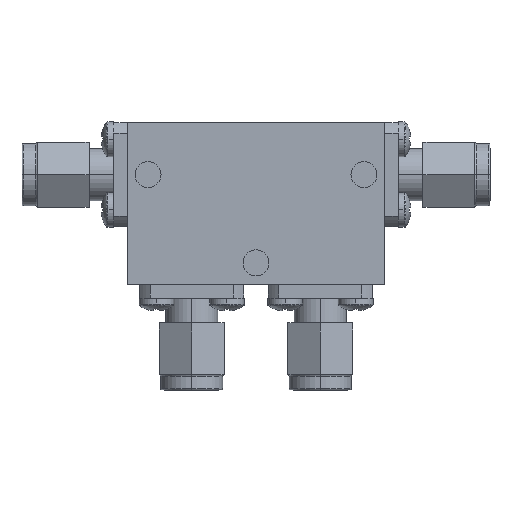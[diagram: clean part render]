
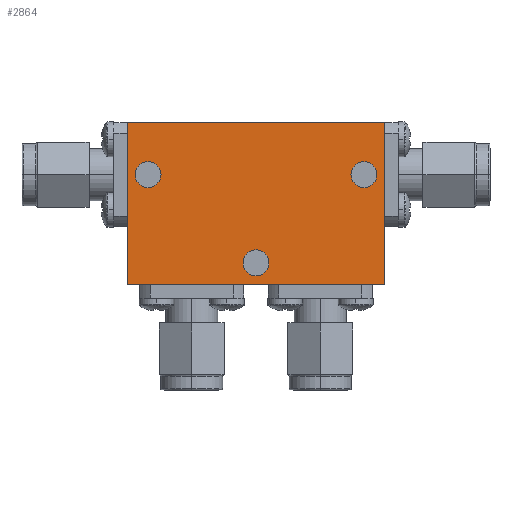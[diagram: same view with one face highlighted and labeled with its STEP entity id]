
A CAD part, top view. The second image highlights one B-rep face of the part: STEP entity #2864.
In plain terms, the highlighted planar face has unit normal (0, 0, 1).
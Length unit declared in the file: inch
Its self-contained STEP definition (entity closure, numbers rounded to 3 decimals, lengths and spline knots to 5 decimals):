
#9 = VERTEX_POINT ( 'NONE', #2728 ) ;
#68 = VECTOR ( 'NONE', #1893, 39.37008 ) ;
#108 = LINE ( 'NONE', #2185, #2172 ) ;
#110 = VECTOR ( 'NONE', #146, 39.37008 ) ;
#146 = DIRECTION ( 'NONE',  ( -1., 0., 0. ) ) ;
#169 = EDGE_CURVE ( 'NONE', #1616, #467, #445, .T. ) ;
#234 = DIRECTION ( 'NONE',  ( 1., 0., 0. ) ) ;
#261 = DIRECTION ( 'NONE',  ( 1., 0., 0. ) ) ;
#274 = DIRECTION ( 'NONE',  ( 0., 0., 1. ) ) ;
#349 = CIRCLE ( 'NONE', #886, 0.0625 ) ;
#445 = LINE ( 'NONE', #939, #110 ) ;
#467 = VERTEX_POINT ( 'NONE', #615 ) ;
#574 = CARTESIAN_POINT ( 'NONE',  ( -0.52, 0.14, 0.25 ) ) ;
#585 = DIRECTION ( 'NONE',  ( 1., 0., 0. ) ) ;
#615 = CARTESIAN_POINT ( 'NONE',  ( -0.62, 0.39, 0.25 ) ) ;
#691 = LINE ( 'NONE', #3111, #2007 ) ;
#714 = VERTEX_POINT ( 'NONE', #3278 ) ;
#742 = ORIENTED_EDGE ( 'NONE', *, *, #1490, .T. ) ;
#772 = CARTESIAN_POINT ( 'NONE',  ( 0., -0.285, 0.25 ) ) ;
#818 = CARTESIAN_POINT ( 'NONE',  ( 0.62, 0.39, 0.25 ) ) ;
#837 = CARTESIAN_POINT ( 'NONE',  ( 0., -0.285, 0.25 ) ) ;
#886 = AXIS2_PLACEMENT_3D ( 'NONE', #837, #1373, #585 ) ;
#899 = DIRECTION ( 'NONE',  ( 1., 0., 0. ) ) ;
#939 = CARTESIAN_POINT ( 'NONE',  ( -0.62, 0.39, 0.25 ) ) ;
#958 = ORIENTED_EDGE ( 'NONE', *, *, #1736, .T. ) ;
#1009 = EDGE_CURVE ( 'NONE', #1565, #9, #1218, .T. ) ;
#1101 = EDGE_CURVE ( 'NONE', #467, #1247, #2582, .T. ) ;
#1154 = ORIENTED_EDGE ( 'NONE', *, *, #2533, .F. ) ;
#1218 = CIRCLE ( 'NONE', #2313, 0.0625 ) ;
#1247 = VERTEX_POINT ( 'NONE', #1677 ) ;
#1287 = CARTESIAN_POINT ( 'NONE',  ( -0.52, 0.14, 0.25 ) ) ;
#1298 = CARTESIAN_POINT ( 'NONE',  ( 0.0625, -0.285, 0.25 ) ) ;
#1324 = VERTEX_POINT ( 'NONE', #2195 ) ;
#1373 = DIRECTION ( 'NONE',  ( 0., 0., 1. ) ) ;
#1393 = AXIS2_PLACEMENT_3D ( 'NONE', #3258, #1973, #2100 ) ;
#1399 = AXIS2_PLACEMENT_3D ( 'NONE', #1287, #1801, #2839 ) ;
#1451 = CARTESIAN_POINT ( 'NONE',  ( 0., 0., 0.25 ) ) ;
#1490 = EDGE_CURVE ( 'NONE', #1247, #1324, #691, .T. ) ;
#1500 = EDGE_CURVE ( 'NONE', #9, #1565, #3104, .T. ) ;
#1510 = CIRCLE ( 'NONE', #1393, 0.0625 ) ;
#1565 = VERTEX_POINT ( 'NONE', #3173 ) ;
#1616 = VERTEX_POINT ( 'NONE', #818 ) ;
#1644 = DIRECTION ( 'NONE',  ( 0., 1., 0. ) ) ;
#1650 = ORIENTED_EDGE ( 'NONE', *, *, #3284, .F. ) ;
#1677 = CARTESIAN_POINT ( 'NONE',  ( -0.62, -0.39, 0.25 ) ) ;
#1684 = AXIS2_PLACEMENT_3D ( 'NONE', #2379, #2602, #234 ) ;
#1736 = EDGE_CURVE ( 'NONE', #1324, #1616, #108, .T. ) ;
#1743 = CARTESIAN_POINT ( 'NONE',  ( 0.5825, 0.14, 0.25 ) ) ;
#1797 = FACE_BOUND ( 'NONE', #2388, .T. ) ;
#1801 = DIRECTION ( 'NONE',  ( 0., 0., 1. ) ) ;
#1824 = DIRECTION ( 'NONE',  ( 1., 0., 0. ) ) ;
#1893 = DIRECTION ( 'NONE',  ( 0., -1., 0. ) ) ;
#1906 = EDGE_CURVE ( 'NONE', #714, #2956, #1510, .T. ) ;
#1973 = DIRECTION ( 'NONE',  ( 0., 0., 1. ) ) ;
#1984 = ORIENTED_EDGE ( 'NONE', *, *, #1009, .F. ) ;
#1993 = ORIENTED_EDGE ( 'NONE', *, *, #2492, .F. ) ;
#2007 = VECTOR ( 'NONE', #1824, 39.37008 ) ;
#2074 = FACE_BOUND ( 'NONE', #2306, .T. ) ;
#2100 = DIRECTION ( 'NONE',  ( 1., 0., 0. ) ) ;
#2134 = DIRECTION ( 'NONE',  ( 1., 0., 0. ) ) ;
#2135 = VERTEX_POINT ( 'NONE', #1298 ) ;
#2172 = VECTOR ( 'NONE', #1644, 39.37008 ) ;
#2185 = CARTESIAN_POINT ( 'NONE',  ( 0.62, 0.39, 0.25 ) ) ;
#2195 = CARTESIAN_POINT ( 'NONE',  ( 0.62, -0.39, 0.25 ) ) ;
#2202 = EDGE_LOOP ( 'NONE', ( #958, #2438, #2395, #742 ) ) ;
#2306 = EDGE_LOOP ( 'NONE', ( #1154, #1650 ) ) ;
#2313 = AXIS2_PLACEMENT_3D ( 'NONE', #574, #2632, #261 ) ;
#2315 = AXIS2_PLACEMENT_3D ( 'NONE', #1451, #2476, #899 ) ;
#2379 = CARTESIAN_POINT ( 'NONE',  ( 0.52, 0.14, 0.25 ) ) ;
#2388 = EDGE_LOOP ( 'NONE', ( #3033, #1984 ) ) ;
#2395 = ORIENTED_EDGE ( 'NONE', *, *, #1101, .T. ) ;
#2398 = ORIENTED_EDGE ( 'NONE', *, *, #1906, .F. ) ;
#2438 = ORIENTED_EDGE ( 'NONE', *, *, #169, .T. ) ;
#2453 = PLANE ( 'NONE',  #2315 ) ;
#2476 = DIRECTION ( 'NONE',  ( 0., 0., 1. ) ) ;
#2492 = EDGE_CURVE ( 'NONE', #2956, #714, #2618, .T. ) ;
#2494 = FACE_BOUND ( 'NONE', #3130, .T. ) ;
#2533 = EDGE_CURVE ( 'NONE', #2135, #2771, #2574, .T. ) ;
#2574 = CIRCLE ( 'NONE', #2891, 0.0625 ) ;
#2582 = LINE ( 'NONE', #2918, #68 ) ;
#2602 = DIRECTION ( 'NONE',  ( 0., 0., 1. ) ) ;
#2618 = CIRCLE ( 'NONE', #1684, 0.0625 ) ;
#2632 = DIRECTION ( 'NONE',  ( 0., 0., 1. ) ) ;
#2728 = CARTESIAN_POINT ( 'NONE',  ( -0.4575, 0.14, 0.25 ) ) ;
#2737 = CARTESIAN_POINT ( 'NONE',  ( -0.0625, -0.285, 0.25 ) ) ;
#2771 = VERTEX_POINT ( 'NONE', #2737 ) ;
#2816 = FACE_OUTER_BOUND ( 'NONE', #2202, .T. ) ;
#2839 = DIRECTION ( 'NONE',  ( 1., 0., 0. ) ) ;
#2864 = ADVANCED_FACE ( 'NONE', ( #2494, #2074, #1797, #2816 ), #2453, .T. ) ;
#2891 = AXIS2_PLACEMENT_3D ( 'NONE', #772, #274, #2134 ) ;
#2918 = CARTESIAN_POINT ( 'NONE',  ( -0.62, 0.39, 0.25 ) ) ;
#2956 = VERTEX_POINT ( 'NONE', #1743 ) ;
#3033 = ORIENTED_EDGE ( 'NONE', *, *, #1500, .F. ) ;
#3104 = CIRCLE ( 'NONE', #1399, 0.0625 ) ;
#3111 = CARTESIAN_POINT ( 'NONE',  ( -0.62, -0.39, 0.25 ) ) ;
#3130 = EDGE_LOOP ( 'NONE', ( #1993, #2398 ) ) ;
#3173 = CARTESIAN_POINT ( 'NONE',  ( -0.5825, 0.14, 0.25 ) ) ;
#3258 = CARTESIAN_POINT ( 'NONE',  ( 0.52, 0.14, 0.25 ) ) ;
#3278 = CARTESIAN_POINT ( 'NONE',  ( 0.4575, 0.14, 0.25 ) ) ;
#3284 = EDGE_CURVE ( 'NONE', #2771, #2135, #349, .T. ) ;
